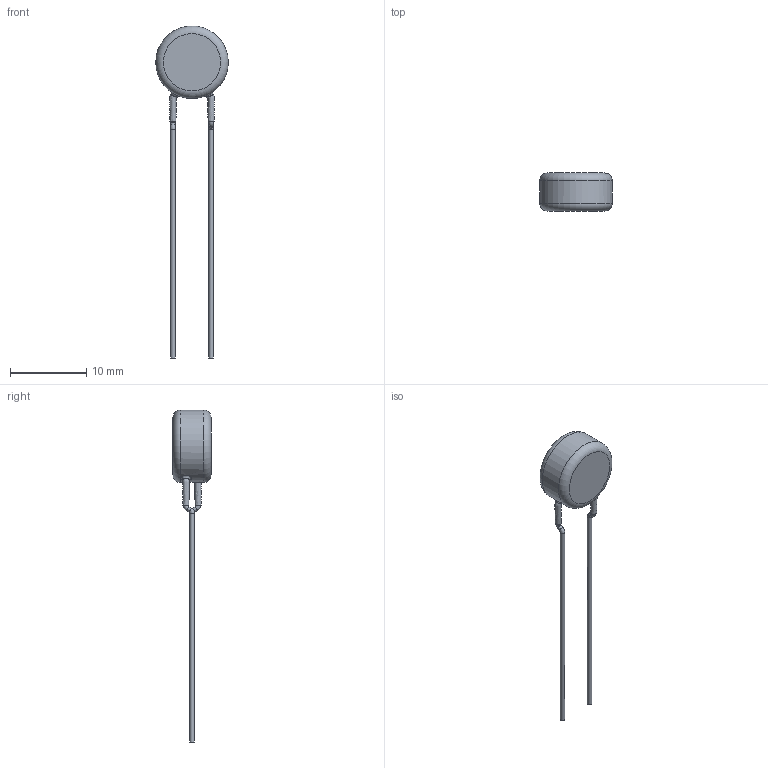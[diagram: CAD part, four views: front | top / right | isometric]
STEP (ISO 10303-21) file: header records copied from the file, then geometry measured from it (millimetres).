
FILE_DESCRIPTION(/* description */ (''),/* implementation_level */ '2;1');
FILE_NAME(/* name */ 'I:\Marketing\M6t1\3D-Models\Zchng-Werk-3\Upload for homepage\BCC\AY2\Inline Dia 0,6 LS 5\AY2222K35Y5US63V5.stp',/* time_stamp */ '2020-11-06T08:55:52+01:00',/* author */ ('truediger'),/* organization */ (''),/* preprocessor_version */ 'ST-DEVELOPER v18',/* originating_system */ 'Autodesk Inventor 2020',/* authorisation */ '');
FILE_SCHEMA (('AUTOMOTIVE_DESIGN { 1 0 10303 214 3 1 1 }'));
Length unit declared in the file: millimetre
Products named in the file (1): Bauteil1
Bounding box: 9.5 x 5 x 43.5 mm (x, y, z)
Volume: 364.1 mm3; surface area: 401 mm2
Topology: 1 solids, 1 shells, 29 faces, 77 edges, 52 vertices
Faces by surface type: cylinder 9, bspline 8, torus 6, plane 6
Full cylindrical faces by diameter (mm): 0.6 x4, 9.5 x1
Entity records: 2226 total; most frequent: CARTESIAN_POINT 1465, ORIENTED_EDGE 154, DIRECTION 141, EDGE_CURVE 77, AXIS2_PLACEMENT_3D 68, VERTEX_POINT 52, CIRCLE 44, EDGE_LOOP 31
